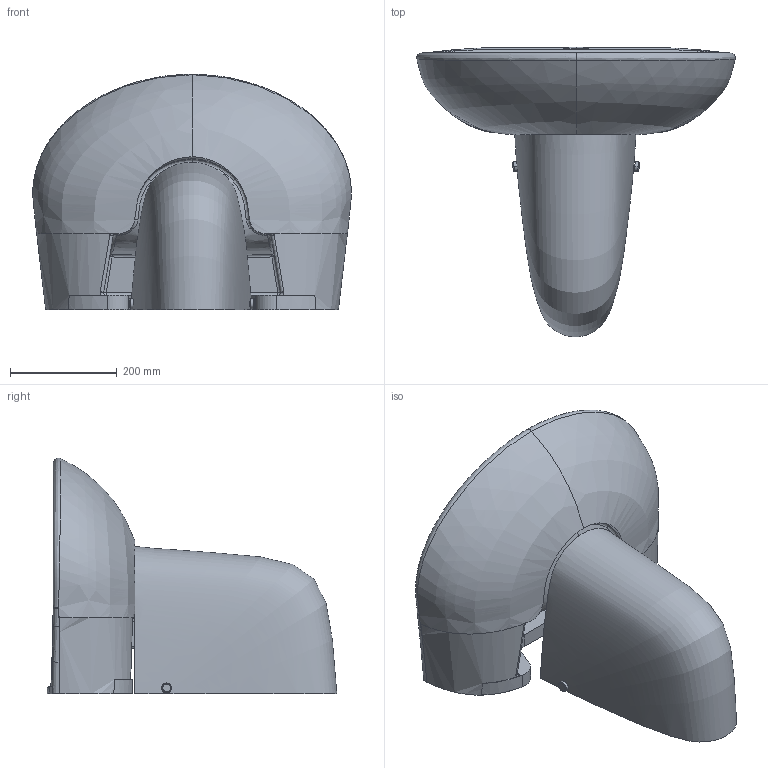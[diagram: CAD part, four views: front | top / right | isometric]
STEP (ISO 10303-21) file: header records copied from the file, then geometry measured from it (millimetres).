
FILE_DESCRIPTION (( 'STEP AP203' ), '1' );
FILE_NAME ('SD060-00CB00E-0000+SD260-00CB00E-0000.STEP', '2022-05-12T06:09:04', ( '' ), ( '' ), 'SwSTEP 2.0', 'SolidWorks 2021', '' );
FILE_SCHEMA (( 'CONFIG_CONTROL_DESIGN' ));
Length unit declared in the file: millimetre
Products named in the file (1): SD060-00CB00E-0000+SD260-00CB00E-0000
Bounding box: 597.53 x 543.27 x 441.88 mm (x, y, z)
Volume: 14830674.7 mm3; surface area: 1278719.9 mm2
Topology: 5 solids, 5 shells, 278 faces, 708 edges, 429 vertices
Faces by surface type: bspline 154, cylinder 56, plane 48, torus 8, sphere 6, cone 6
Entity records: 73147 total; most frequent: CARTESIAN_POINT 67678, ORIENTED_EDGE 1392, DIRECTION 727, EDGE_CURVE 696, VERTEX_POINT 429, B_SPLINE_CURVE_WITH_KNOTS 361, EDGE_LOOP 293, AXIS2_PLACEMENT_3D 290
